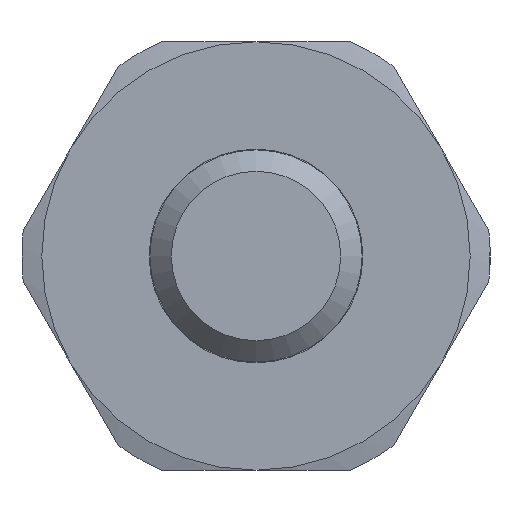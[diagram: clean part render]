
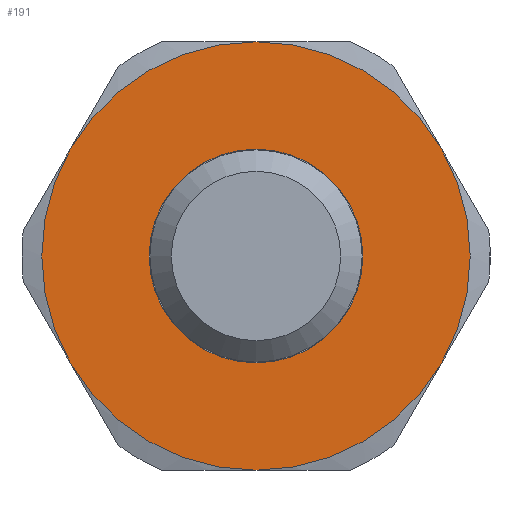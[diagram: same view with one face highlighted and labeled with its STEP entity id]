
A CAD part, left-side view. The second image highlights one B-rep face of the part: STEP entity #191.
In plain terms, the highlighted planar face has unit normal (-1, 0, 0).
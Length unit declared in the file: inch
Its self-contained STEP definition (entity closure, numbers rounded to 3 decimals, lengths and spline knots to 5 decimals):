
#119=CARTESIAN_POINT('',(-0.219,0.0,0.0));
#120=DIRECTION('',(1.0,0.0,0.0));
#121=DIRECTION('',(0.0,1.0,0.0));
#122=AXIS2_PLACEMENT_3D('',#119,#120,#121);
#123=PLANE('',#122);
#124=CARTESIAN_POINT('',(-0.219,0.43301,-0.25));
#125=VERTEX_POINT('',#124);
#126=CARTESIAN_POINT('',(-0.219,0.0,-0.5));
#127=VERTEX_POINT('',#126);
#128=CARTESIAN_POINT('',(-0.219,0.0,0.0));
#129=DIRECTION('',(-1.0,0.0,0.0));
#130=DIRECTION('',(0.0,1.0,0.0));
#131=AXIS2_PLACEMENT_3D('',#128,#129,#130);
#132=CIRCLE('',#131,0.5);
#133=EDGE_CURVE('',#125,#127,#132,.T.);
#134=ORIENTED_EDGE('',*,*,#133,.T.);
#135=CARTESIAN_POINT('',(-0.219,-0.43301,-0.25));
#136=VERTEX_POINT('',#135);
#137=CARTESIAN_POINT('',(-0.219,0.0,0.0));
#138=DIRECTION('',(-1.0,0.0,0.0));
#139=DIRECTION('',(0.0,1.0,0.0));
#140=AXIS2_PLACEMENT_3D('',#137,#138,#139);
#141=CIRCLE('',#140,0.5);
#142=EDGE_CURVE('',#127,#136,#141,.T.);
#143=ORIENTED_EDGE('',*,*,#142,.T.);
#144=CARTESIAN_POINT('',(-0.219,-0.43301,0.25));
#145=VERTEX_POINT('',#144);
#146=CARTESIAN_POINT('',(-0.219,0.0,0.0));
#147=DIRECTION('',(-1.0,0.0,0.0));
#148=DIRECTION('',(0.0,1.0,0.0));
#149=AXIS2_PLACEMENT_3D('',#146,#147,#148);
#150=CIRCLE('',#149,0.5);
#151=EDGE_CURVE('',#136,#145,#150,.T.);
#152=ORIENTED_EDGE('',*,*,#151,.T.);
#153=CARTESIAN_POINT('',(-0.219,0.0,0.5));
#154=VERTEX_POINT('',#153);
#155=CARTESIAN_POINT('',(-0.219,0.0,0.0));
#156=DIRECTION('',(-1.0,0.0,0.0));
#157=DIRECTION('',(0.0,1.0,0.0));
#158=AXIS2_PLACEMENT_3D('',#155,#156,#157);
#159=CIRCLE('',#158,0.5);
#160=EDGE_CURVE('',#145,#154,#159,.T.);
#161=ORIENTED_EDGE('',*,*,#160,.T.);
#162=CARTESIAN_POINT('',(-0.219,0.43301,0.25));
#163=VERTEX_POINT('',#162);
#164=CARTESIAN_POINT('',(-0.219,0.0,0.0));
#165=DIRECTION('',(-1.0,0.0,0.0));
#166=DIRECTION('',(0.0,1.0,0.0));
#167=AXIS2_PLACEMENT_3D('',#164,#165,#166);
#168=CIRCLE('',#167,0.5);
#169=EDGE_CURVE('',#154,#163,#168,.T.);
#170=ORIENTED_EDGE('',*,*,#169,.T.);
#171=CARTESIAN_POINT('',(-0.219,0.0,0.0));
#172=DIRECTION('',(-1.0,0.0,0.0));
#173=DIRECTION('',(0.0,1.0,0.0));
#174=AXIS2_PLACEMENT_3D('',#171,#172,#173);
#175=CIRCLE('',#174,0.5);
#176=EDGE_CURVE('',#163,#125,#175,.T.);
#177=ORIENTED_EDGE('',*,*,#176,.T.);
#178=EDGE_LOOP('',(#134,#143,#152,#161,#170,#177));
#179=FACE_OUTER_BOUND('',#178,.T.);
#180=CARTESIAN_POINT('',(-0.219,-0.2495,0.0));
#181=VERTEX_POINT('',#180);
#182=CARTESIAN_POINT('',(-0.219,0.0,0.0));
#183=DIRECTION('',(-1.0,0.0,0.0));
#184=DIRECTION('',(0.0,-1.0,0.0));
#185=AXIS2_PLACEMENT_3D('',#182,#183,#184);
#186=CIRCLE('',#185,0.2495);
#187=EDGE_CURVE('',#181,#181,#186,.T.);
#188=ORIENTED_EDGE('',*,*,#187,.F.);
#189=EDGE_LOOP('',(#188));
#190=FACE_BOUND('',#189,.T.);
#191=ADVANCED_FACE('',(#179,#190),#123,.F.);
